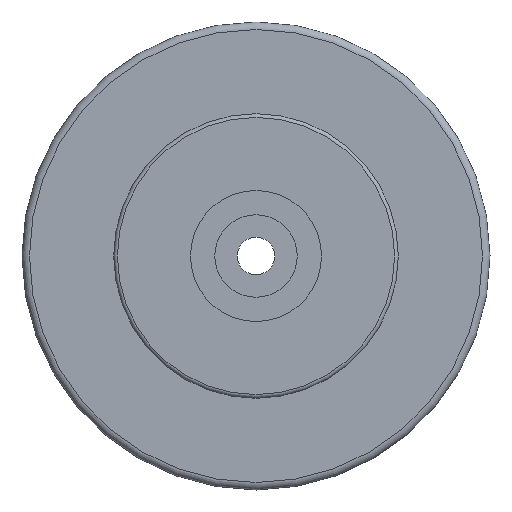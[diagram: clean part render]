
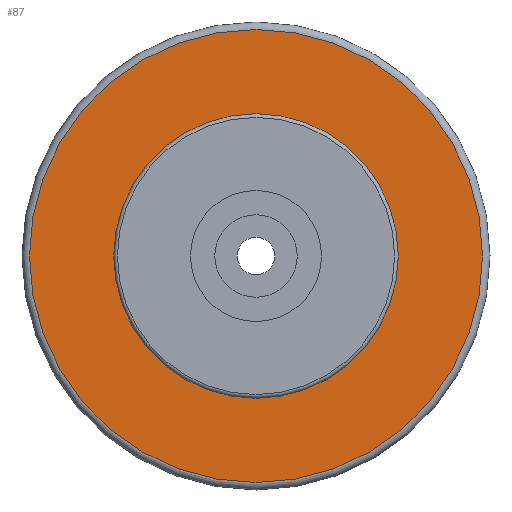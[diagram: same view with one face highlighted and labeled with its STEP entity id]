
A CAD part, left-side view. The second image highlights one B-rep face of the part: STEP entity #87.
In plain terms, the highlighted planar face has unit normal (-1, 0, 0).
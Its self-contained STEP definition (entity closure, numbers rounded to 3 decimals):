
#87 = ADVANCED_FACE( '', ( #139, #140 ), #141, .T. );
#139 = FACE_BOUND( '', #216, .T. );
#140 = FACE_OUTER_BOUND( '', #217, .T. );
#141 = PLANE( '', #218 );
#216 = EDGE_LOOP( '', ( #319 ) );
#217 = EDGE_LOOP( '', ( #320 ) );
#218 = AXIS2_PLACEMENT_3D( '', #321, #322, #323 );
#319 = ORIENTED_EDGE( '', *, *, #403, .T. );
#320 = ORIENTED_EDGE( '', *, *, #402, .F. );
#321 = CARTESIAN_POINT( '', ( 36., 60.501, 0. ) );
#322 = DIRECTION( '', ( -1., 0., 0. ) );
#323 = DIRECTION( '', ( 0., 0., 1. ) );
#402 = EDGE_CURVE( '', #444, #444, #445, .T. );
#403 = EDGE_CURVE( '', #446, #446, #447, .T. );
#444 = VERTEX_POINT( '', #581 );
#445 = CIRCLE( '', #582, 60.501 );
#446 = VERTEX_POINT( '', #583 );
#447 = CIRCLE( '', #584, 38. );
#581 = CARTESIAN_POINT( '', ( 36., 0., -60.501 ) );
#582 = AXIS2_PLACEMENT_3D( '', #646, #647, #648 );
#583 = CARTESIAN_POINT( '', ( 36., 0., -38. ) );
#584 = AXIS2_PLACEMENT_3D( '', #649, #650, #651 );
#646 = CARTESIAN_POINT( '', ( 36., 0., 0. ) );
#647 = DIRECTION( '', ( 1., 0., 0. ) );
#648 = DIRECTION( '', ( 0., 0., -1. ) );
#649 = CARTESIAN_POINT( '', ( 36., 0., 0. ) );
#650 = DIRECTION( '', ( 1., 0., 0. ) );
#651 = DIRECTION( '', ( 0., 0., -1. ) );
